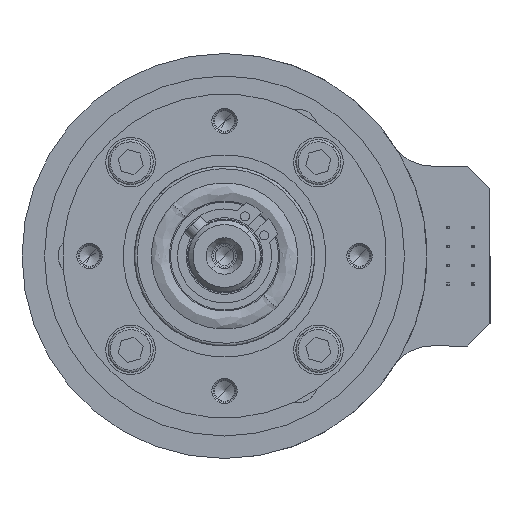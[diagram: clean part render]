
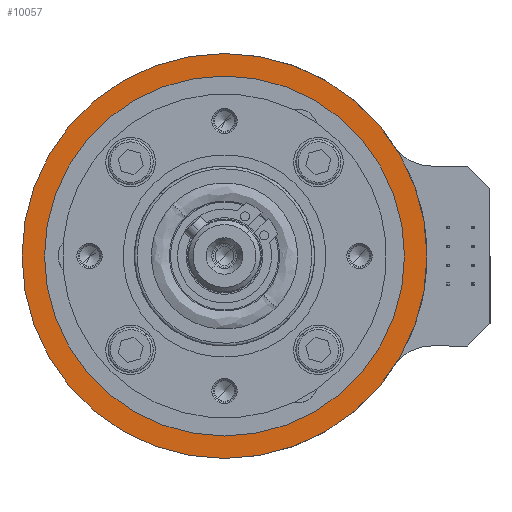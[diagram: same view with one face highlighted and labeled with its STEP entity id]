
A CAD part, left-side view. The second image highlights one B-rep face of the part: STEP entity #10057.
In plain terms, the highlighted planar face has unit normal (-1, 0, 0).
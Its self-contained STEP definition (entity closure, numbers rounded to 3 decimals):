
#70 = FACE_BOUND ( 'NONE', #1796, .T. ) ;
#392 = DIRECTION ( 'NONE',  ( -1., 0., 0. ) ) ;
#886 = CARTESIAN_POINT ( 'NONE',  ( 0., 0., 0. ) ) ;
#1002 = CARTESIAN_POINT ( 'NONE',  ( 0., 32.5, 0. ) ) ;
#1450 = AXIS2_PLACEMENT_3D ( 'NONE', #27067, #22109, #29830 ) ;
#1796 = EDGE_LOOP ( 'NONE', ( #16061, #5261 ) ) ;
#2074 = CARTESIAN_POINT ( 'NONE',  ( 0., 0., 45. ) ) ;
#2106 = EDGE_LOOP ( 'NONE', ( #23847, #27399 ) ) ;
#2823 = CIRCLE ( 'NONE', #7859, 2.1 ) ;
#2931 = CIRCLE ( 'NONE', #24952, 2.1 ) ;
#3095 = CARTESIAN_POINT ( 'NONE',  ( 0., 32.5, -2.1 ) ) ;
#3464 = CARTESIAN_POINT ( 'NONE',  ( 0., -16.25, -28.146 ) ) ;
#3966 = CARTESIAN_POINT ( 'NONE',  ( 0., 0., 0. ) ) ;
#3987 = FACE_OUTER_BOUND ( 'NONE', #2106, .T. ) ;
#5042 = CARTESIAN_POINT ( 'NONE',  ( 0., -16.25, 28.146 ) ) ;
#5261 = ORIENTED_EDGE ( 'NONE', *, *, #12016, .F. ) ;
#5973 = DIRECTION ( 'NONE',  ( -1., 0., 0. ) ) ;
#6405 = DIRECTION ( 'NONE',  ( -1., 0., 0. ) ) ;
#6484 = CARTESIAN_POINT ( 'NONE',  ( 0., 0., 17.5 ) ) ;
#6577 = ORIENTED_EDGE ( 'NONE', *, *, #27495, .F. ) ;
#6660 = FACE_BOUND ( 'NONE', #20224, .T. ) ;
#7859 = AXIS2_PLACEMENT_3D ( 'NONE', #12589, #392, #27145 ) ;
#7880 = CARTESIAN_POINT ( 'NONE',  ( 0., 32.5, 2.1 ) ) ;
#8108 = EDGE_CURVE ( 'NONE', #19480, #15484, #19151, .T. ) ;
#8650 = DIRECTION ( 'NONE',  ( 0., 0., 1. ) ) ;
#8704 = ORIENTED_EDGE ( 'NONE', *, *, #14746, .F. ) ;
#9035 = CARTESIAN_POINT ( 'NONE',  ( 0., -16.25, 28.146 ) ) ;
#9212 = EDGE_CURVE ( 'NONE', #27619, #10175, #19057, .T. ) ;
#9386 = CARTESIAN_POINT ( 'NONE',  ( 0., 0., -45. ) ) ;
#9702 = DIRECTION ( 'NONE',  ( 0., 0., -1. ) ) ;
#9769 = FACE_BOUND ( 'NONE', #14024, .T. ) ;
#9881 = AXIS2_PLACEMENT_3D ( 'NONE', #14200, #21307, #26513 ) ;
#10057 = ADVANCED_FACE ( 'NONE', ( #70, #6660, #9769, #27095, #3987 ), #16668, .F. ) ;
#10124 = AXIS2_PLACEMENT_3D ( 'NONE', #886, #18090, #11543 ) ;
#10175 = VERTEX_POINT ( 'NONE', #11824 ) ;
#10570 = ORIENTED_EDGE ( 'NONE', *, *, #14693, .F. ) ;
#11064 = AXIS2_PLACEMENT_3D ( 'NONE', #18645, #6405, #16303 ) ;
#11182 = DIRECTION ( 'NONE',  ( 0., 0., -1. ) ) ;
#11347 = ORIENTED_EDGE ( 'NONE', *, *, #13364, .F. ) ;
#11543 = DIRECTION ( 'NONE',  ( 0., 0., -1. ) ) ;
#11824 = CARTESIAN_POINT ( 'NONE',  ( 0., 0., -17.5 ) ) ;
#12016 = EDGE_CURVE ( 'NONE', #20802, #15203, #17313, .T. ) ;
#12059 = CARTESIAN_POINT ( 'NONE',  ( 0., 0., 0. ) ) ;
#12589 = CARTESIAN_POINT ( 'NONE',  ( 0., -16.25, -28.146 ) ) ;
#12693 = VERTEX_POINT ( 'NONE', #17678 ) ;
#13364 = EDGE_CURVE ( 'NONE', #16861, #12693, #2823, .T. ) ;
#13512 = DIRECTION ( 'NONE',  ( -1., 0., 0. ) ) ;
#13648 = AXIS2_PLACEMENT_3D ( 'NONE', #3966, #18779, #11182 ) ;
#14024 = EDGE_LOOP ( 'NONE', ( #15708, #8704 ) ) ;
#14200 = CARTESIAN_POINT ( 'NONE',  ( 0., 0., 0. ) ) ;
#14429 = EDGE_CURVE ( 'NONE', #30661, #21595, #29852, .T. ) ;
#14519 = DIRECTION ( 'NONE',  ( -1., 0., 0. ) ) ;
#14693 = EDGE_CURVE ( 'NONE', #10175, #27619, #15103, .T. ) ;
#14746 = EDGE_CURVE ( 'NONE', #15484, #19480, #28671, .T. ) ;
#15103 = CIRCLE ( 'NONE', #13648, 17.5 ) ;
#15203 = VERTEX_POINT ( 'NONE', #7880 ) ;
#15341 = DIRECTION ( 'NONE',  ( -1., 0., 0. ) ) ;
#15484 = VERTEX_POINT ( 'NONE', #17784 ) ;
#15708 = ORIENTED_EDGE ( 'NONE', *, *, #8108, .F. ) ;
#16061 = ORIENTED_EDGE ( 'NONE', *, *, #25907, .F. ) ;
#16303 = DIRECTION ( 'NONE',  ( 0., 0., 1. ) ) ;
#16668 = PLANE ( 'NONE',  #9881 ) ;
#16861 = VERTEX_POINT ( 'NONE', #17208 ) ;
#17208 = CARTESIAN_POINT ( 'NONE',  ( 0., -16.25, -26.046 ) ) ;
#17313 = CIRCLE ( 'NONE', #28055, 2.1 ) ;
#17678 = CARTESIAN_POINT ( 'NONE',  ( 0., -16.25, -30.246 ) ) ;
#17784 = CARTESIAN_POINT ( 'NONE',  ( 0., -16.25, 26.046 ) ) ;
#18090 = DIRECTION ( 'NONE',  ( 1., 0., 0. ) ) ;
#18129 = CARTESIAN_POINT ( 'NONE',  ( 0., -16.25, 30.246 ) ) ;
#18532 = DIRECTION ( 'NONE',  ( 0., 0., 1. ) ) ;
#18645 = CARTESIAN_POINT ( 'NONE',  ( 0., 32.5, 0. ) ) ;
#18779 = DIRECTION ( 'NONE',  ( -1., 0., 0. ) ) ;
#18869 = EDGE_LOOP ( 'NONE', ( #10570, #30272 ) ) ;
#19057 = CIRCLE ( 'NONE', #30560, 17.5 ) ;
#19151 = CIRCLE ( 'NONE', #29471, 2.1 ) ;
#19480 = VERTEX_POINT ( 'NONE', #18129 ) ;
#19920 = EDGE_CURVE ( 'NONE', #21595, #30661, #29934, .T. ) ;
#20224 = EDGE_LOOP ( 'NONE', ( #11347, #6577 ) ) ;
#20518 = DIRECTION ( 'NONE',  ( 0., 0., 1. ) ) ;
#20802 = VERTEX_POINT ( 'NONE', #3095 ) ;
#21051 = DIRECTION ( 'NONE',  ( -1., 0., 0. ) ) ;
#21307 = DIRECTION ( 'NONE',  ( 1., 0., 0. ) ) ;
#21595 = VERTEX_POINT ( 'NONE', #9386 ) ;
#22109 = DIRECTION ( 'NONE',  ( 1., 0., 0. ) ) ;
#23847 = ORIENTED_EDGE ( 'NONE', *, *, #19920, .F. ) ;
#24952 = AXIS2_PLACEMENT_3D ( 'NONE', #3464, #5973, #8650 ) ;
#25907 = EDGE_CURVE ( 'NONE', #15203, #20802, #30119, .T. ) ;
#26513 = DIRECTION ( 'NONE',  ( 0., 0., -1. ) ) ;
#27067 = CARTESIAN_POINT ( 'NONE',  ( 0., 0., 0. ) ) ;
#27095 = FACE_BOUND ( 'NONE', #18869, .T. ) ;
#27145 = DIRECTION ( 'NONE',  ( 0., 0., 1. ) ) ;
#27399 = ORIENTED_EDGE ( 'NONE', *, *, #14429, .F. ) ;
#27495 = EDGE_CURVE ( 'NONE', #12693, #16861, #2931, .T. ) ;
#27619 = VERTEX_POINT ( 'NONE', #6484 ) ;
#28055 = AXIS2_PLACEMENT_3D ( 'NONE', #1002, #13512, #18532 ) ;
#28671 = CIRCLE ( 'NONE', #30865, 2.1 ) ;
#29471 = AXIS2_PLACEMENT_3D ( 'NONE', #5042, #15341, #20518 ) ;
#29830 = DIRECTION ( 'NONE',  ( 0., 0., -1. ) ) ;
#29852 = CIRCLE ( 'NONE', #1450, 45. ) ;
#29934 = CIRCLE ( 'NONE', #10124, 45. ) ;
#30119 = CIRCLE ( 'NONE', #11064, 2.1 ) ;
#30272 = ORIENTED_EDGE ( 'NONE', *, *, #9212, .F. ) ;
#30560 = AXIS2_PLACEMENT_3D ( 'NONE', #12059, #14519, #9702 ) ;
#30661 = VERTEX_POINT ( 'NONE', #2074 ) ;
#30863 = DIRECTION ( 'NONE',  ( 0., 0., 1. ) ) ;
#30865 = AXIS2_PLACEMENT_3D ( 'NONE', #9035, #21051, #30863 ) ;
